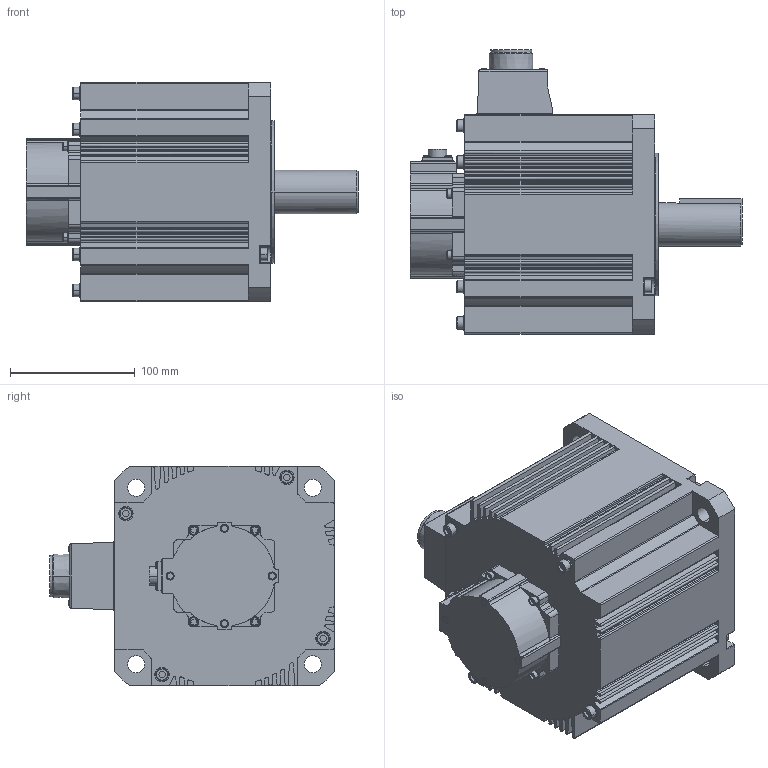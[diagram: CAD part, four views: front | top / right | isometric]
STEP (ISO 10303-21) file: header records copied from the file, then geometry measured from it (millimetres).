
FILE_DESCRIPTION( ( '' ), '1' );
FILE_NAME( '//expscmdclustefs.cadenas.external/client_exchange/iodir/jobs/output/wkb64904058_no0/STEP/MDME504G1G_2_03.stp', '2013-10-30T13:01:14', ( '' ), ( '' ), ' ', ' ', ' ' );
FILE_SCHEMA( ( 'CONFIG_CONTROL_DESIGN' ) );
Length unit declared in the file: millimetre
Products named in the file (1): 1
Bounding box: 266 x 228 x 176 mm (x, y, z)
Volume: 4615234.5 mm3; surface area: 244795.4 mm2
Topology: 1 solids, 1 shells, 681 faces, 1802 edges, 1183 vertices
Faces by surface type: plane 313, cylinder 284, cone 44, torus 32, sphere 8
Entity records: 21657 total; most frequent: CARTESIAN_POINT 4033, DIRECTION 3879, ORIENTED_EDGE 3604, EDGE_CURVE 1802, AXIS2_PLACEMENT_3D 1431, VERTEX_POINT 1183, LINE 1017, VECTOR 1017
